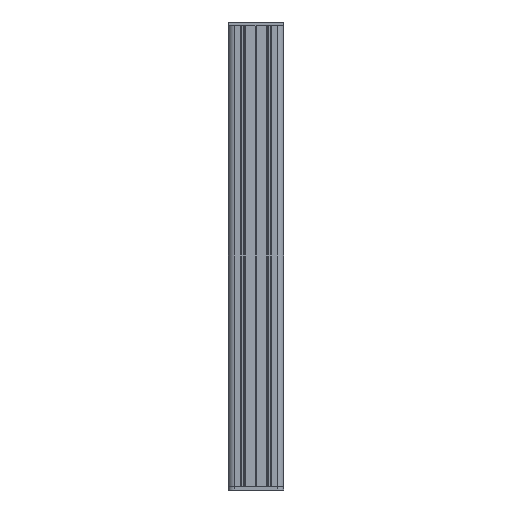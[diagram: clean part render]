
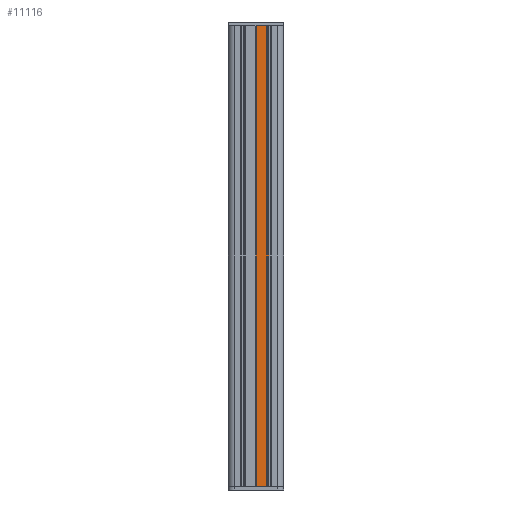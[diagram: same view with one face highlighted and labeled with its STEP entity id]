
A CAD part, left-side view. The second image highlights one B-rep face of the part: STEP entity #11116.
In plain terms, the highlighted planar face has unit normal (-1, 0, 0) as drawn and (0, -1, 0) by its records, which use the part's own axes.
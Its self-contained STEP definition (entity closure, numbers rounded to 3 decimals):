
#104 = CARTESIAN_POINT ( 'NONE',  ( 8., -5., 180. ) ) ;
#1000 = VERTEX_POINT ( 'NONE', #21875 ) ;
#1864 = DIRECTION ( 'NONE',  ( 0., 0., 1. ) ) ;
#2736 = VECTOR ( 'NONE', #1864, 1000. ) ;
#5017 = CARTESIAN_POINT ( 'NONE',  ( 6.75, -5., -180. ) ) ;
#8452 = DIRECTION ( 'NONE',  ( 0., -1., 0. ) ) ;
#9088 = EDGE_CURVE ( 'NONE', #15879, #16438, #11744, .T. ) ;
#9446 = DIRECTION ( 'NONE',  ( 1., 0., 0. ) ) ;
#9820 = VECTOR ( 'NONE', #30187, 1000. ) ;
#10930 = CARTESIAN_POINT ( 'NONE',  ( 6.75, -5., 180. ) ) ;
#11116 = ADVANCED_FACE ( 'NONE', ( #13204 ), #22238, .T. ) ;
#11233 = EDGE_CURVE ( 'NONE', #1000, #16438, #15801, .T. ) ;
#11483 = EDGE_LOOP ( 'NONE', ( #18853, #24469, #22082, #16360 ) ) ;
#11744 = LINE ( 'NONE', #104, #24273 ) ;
#13204 = FACE_OUTER_BOUND ( 'NONE', #11483, .T. ) ;
#13565 = CARTESIAN_POINT ( 'NONE',  ( 6.75, -5., -180. ) ) ;
#14205 = VERTEX_POINT ( 'NONE', #5017 ) ;
#15050 = CARTESIAN_POINT ( 'NONE',  ( 8., -5., -180. ) ) ;
#15801 = LINE ( 'NONE', #18259, #2736 ) ;
#15879 = VERTEX_POINT ( 'NONE', #10930 ) ;
#16360 = ORIENTED_EDGE ( 'NONE', *, *, #22854, .F. ) ;
#16438 = VERTEX_POINT ( 'NONE', #28167 ) ;
#16911 = AXIS2_PLACEMENT_3D ( 'NONE', #15050, #8452, #17651 ) ;
#17651 = DIRECTION ( 'NONE',  ( 1., 0., 0. ) ) ;
#18259 = CARTESIAN_POINT ( 'NONE',  ( 16.279, -5., -180. ) ) ;
#18853 = ORIENTED_EDGE ( 'NONE', *, *, #30205, .T. ) ;
#20331 = VECTOR ( 'NONE', #22918, 1000. ) ;
#20844 = CARTESIAN_POINT ( 'NONE',  ( 8., -5., -180. ) ) ;
#21875 = CARTESIAN_POINT ( 'NONE',  ( 16.279, -5., -180. ) ) ;
#22082 = ORIENTED_EDGE ( 'NONE', *, *, #9088, .F. ) ;
#22238 = PLANE ( 'NONE',  #16911 ) ;
#22854 = EDGE_CURVE ( 'NONE', #14205, #15879, #23065, .T. ) ;
#22918 = DIRECTION ( 'NONE',  ( 0., 0., 1. ) ) ;
#23065 = LINE ( 'NONE', #13565, #20331 ) ;
#23145 = LINE ( 'NONE', #20844, #9820 ) ;
#24273 = VECTOR ( 'NONE', #9446, 1000. ) ;
#24469 = ORIENTED_EDGE ( 'NONE', *, *, #11233, .T. ) ;
#28167 = CARTESIAN_POINT ( 'NONE',  ( 16.279, -5., 180. ) ) ;
#30187 = DIRECTION ( 'NONE',  ( 1., 0., 0. ) ) ;
#30205 = EDGE_CURVE ( 'NONE', #14205, #1000, #23145, .T. ) ;
